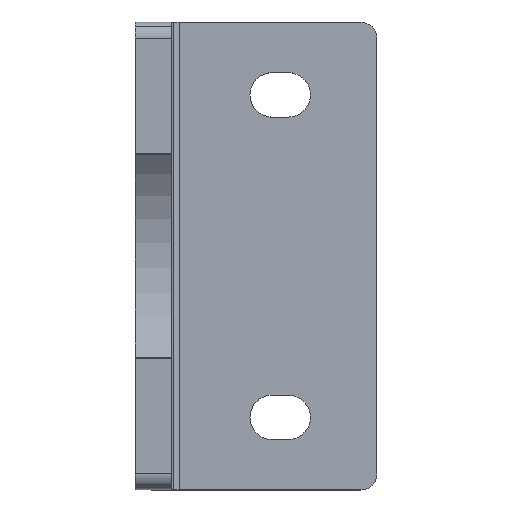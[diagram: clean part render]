
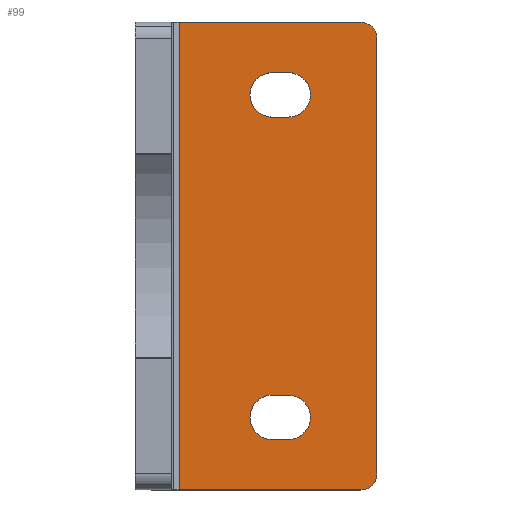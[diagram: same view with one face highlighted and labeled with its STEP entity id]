
A CAD part, top view. The second image highlights one B-rep face of the part: STEP entity #99.
In plain terms, the highlighted planar face has unit normal (0, 0, 1).
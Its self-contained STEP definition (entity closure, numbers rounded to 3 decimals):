
#99=ADVANCED_FACE('',(#259,#260,#261),#262,.T.);
#259=FACE_BOUND('',#485,.T.);
#260=FACE_BOUND('',#486,.T.);
#261=FACE_OUTER_BOUND('',#487,.T.);
#262=PLANE('',#488);
#485=EDGE_LOOP('',(#6237,#6238,#6239,#6240,#6241,#6242,#6243,#6244));
#486=EDGE_LOOP('',(#6245,#6246,#6247,#6248,#6249,#6250,#6251,#6252));
#487=EDGE_LOOP('',(#6253,#6254,#6255,#6256,#6257,#6258,#6259,#6260));
#488=AXIS2_PLACEMENT_3D('',#6261,#6262,#6263);
#6237=ORIENTED_EDGE('',*,*,#6908,.T.);
#6238=ORIENTED_EDGE('',*,*,#6909,.T.);
#6239=ORIENTED_EDGE('',*,*,#6910,.T.);
#6240=ORIENTED_EDGE('',*,*,#6911,.T.);
#6241=ORIENTED_EDGE('',*,*,#6912,.T.);
#6242=ORIENTED_EDGE('',*,*,#6913,.T.);
#6243=ORIENTED_EDGE('',*,*,#6914,.T.);
#6244=ORIENTED_EDGE('',*,*,#6915,.T.);
#6245=ORIENTED_EDGE('',*,*,#6916,.T.);
#6246=ORIENTED_EDGE('',*,*,#6917,.T.);
#6247=ORIENTED_EDGE('',*,*,#6918,.T.);
#6248=ORIENTED_EDGE('',*,*,#6919,.T.);
#6249=ORIENTED_EDGE('',*,*,#6920,.T.);
#6250=ORIENTED_EDGE('',*,*,#6921,.T.);
#6251=ORIENTED_EDGE('',*,*,#6922,.T.);
#6252=ORIENTED_EDGE('',*,*,#6923,.T.);
#6253=ORIENTED_EDGE('',*,*,#6924,.F.);
#6254=ORIENTED_EDGE('',*,*,#6898,.F.);
#6255=ORIENTED_EDGE('',*,*,#6925,.F.);
#6256=ORIENTED_EDGE('',*,*,#6926,.F.);
#6257=ORIENTED_EDGE('',*,*,#6927,.F.);
#6258=ORIENTED_EDGE('',*,*,#6928,.F.);
#6259=ORIENTED_EDGE('',*,*,#6929,.F.);
#6260=ORIENTED_EDGE('',*,*,#6930,.F.);
#6261=CARTESIAN_POINT('',(109.207,120.633,20.75));
#6262=DIRECTION('',(0.0,0.,1.0));
#6263=DIRECTION('',(0.0,-1.0,0.));
#6898=EDGE_CURVE('',#7178,#7180,#7181,.T.);
#6908=EDGE_CURVE('',#7197,#7198,#7199,.T.);
#6909=EDGE_CURVE('',#7198,#7200,#7201,.T.);
#6910=EDGE_CURVE('',#7200,#7202,#7203,.T.);
#6911=EDGE_CURVE('',#7202,#7204,#7205,.T.);
#6912=EDGE_CURVE('',#7204,#7206,#7207,.T.);
#6913=EDGE_CURVE('',#7206,#7208,#7209,.T.);
#6914=EDGE_CURVE('',#7208,#7210,#7211,.T.);
#6915=EDGE_CURVE('',#7210,#7197,#7212,.T.);
#6916=EDGE_CURVE('',#7213,#7214,#7215,.T.);
#6917=EDGE_CURVE('',#7214,#7216,#7217,.T.);
#6918=EDGE_CURVE('',#7216,#7218,#7219,.T.);
#6919=EDGE_CURVE('',#7218,#7220,#7221,.T.);
#6920=EDGE_CURVE('',#7220,#7222,#7223,.T.);
#6921=EDGE_CURVE('',#7222,#7224,#7225,.T.);
#6922=EDGE_CURVE('',#7224,#7226,#7227,.T.);
#6923=EDGE_CURVE('',#7226,#7213,#7228,.T.);
#6924=EDGE_CURVE('',#7180,#7229,#7230,.T.);
#6925=EDGE_CURVE('',#7231,#7178,#7232,.T.);
#6926=EDGE_CURVE('',#7233,#7231,#7234,.T.);
#6927=EDGE_CURVE('',#7235,#7233,#7236,.T.);
#6928=EDGE_CURVE('',#7237,#7235,#7238,.T.);
#6929=EDGE_CURVE('',#7239,#7237,#7240,.T.);
#6930=EDGE_CURVE('',#7229,#7239,#7241,.T.);
#7178=VERTEX_POINT('',#7592);
#7180=VERTEX_POINT('',#7595);
#7181=LINE('',#7596,#7597);
#7197=VERTEX_POINT('',#7962);
#7198=VERTEX_POINT('',#7963);
#7199=CIRCLE('',#7964,2.75);
#7200=VERTEX_POINT('',#7965);
#7201=CIRCLE('',#7966,2.75);
#7202=VERTEX_POINT('',#7967);
#7203=LINE('',#7968,#7969);
#7204=VERTEX_POINT('',#7970);
#7205=LINE('',#7971,#7972);
#7206=VERTEX_POINT('',#7973);
#7207=CIRCLE('',#7974,2.75);
#7208=VERTEX_POINT('',#7975);
#7209=CIRCLE('',#7976,2.75);
#7210=VERTEX_POINT('',#7977);
#7211=LINE('',#7978,#7979);
#7212=LINE('',#7980,#7981);
#7213=VERTEX_POINT('',#7982);
#7214=VERTEX_POINT('',#7983);
#7215=CIRCLE('',#7984,2.75);
#7216=VERTEX_POINT('',#7985);
#7217=CIRCLE('',#7986,2.75);
#7218=VERTEX_POINT('',#7987);
#7219=LINE('',#7988,#7989);
#7220=VERTEX_POINT('',#7990);
#7221=LINE('',#7991,#7992);
#7222=VERTEX_POINT('',#7993);
#7223=CIRCLE('',#7994,2.75);
#7224=VERTEX_POINT('',#7995);
#7225=CIRCLE('',#7996,2.75);
#7226=VERTEX_POINT('',#7997);
#7227=LINE('',#7998,#7999);
#7228=LINE('',#8000,#8001);
#7229=VERTEX_POINT('',#8002);
#7230=LINE('',#8003,#8004);
#7231=VERTEX_POINT('',#8005);
#7232=CIRCLE('',#8006,2.);
#7233=VERTEX_POINT('',#8007);
#7234=CIRCLE('',#8008,2.);
#7235=VERTEX_POINT('',#8009);
#7236=LINE('',#8010,#8011);
#7237=VERTEX_POINT('',#8012);
#7238=CIRCLE('',#8013,2.);
#7239=VERTEX_POINT('',#8014);
#7240=CIRCLE('',#8015,2.);
#7241=LINE('',#8016,#8017);
#7592=CARTESIAN_POINT('',(119.957,91.633,20.75));
#7595=CARTESIAN_POINT('',(97.457,91.633,20.75));
#7596=CARTESIAN_POINT('',(108.082,91.633,20.75));
#7597=VECTOR('',#17234,1.0);
#7962=CARTESIAN_POINT('',(108.707,97.894,20.75));
#7963=CARTESIAN_POINT('',(106.207,100.633,20.75));
#7964=AXIS2_PLACEMENT_3D('',#17244,#17245,#17246);
#7965=CARTESIAN_POINT('',(108.707,103.371,20.75));
#7966=AXIS2_PLACEMENT_3D('',#17247,#17248,#17249);
#7967=CARTESIAN_POINT('',(108.707,103.383,20.75));
#7968=CARTESIAN_POINT('',(108.707,110.633,20.75));
#7969=VECTOR('',#17250,1.0);
#7970=CARTESIAN_POINT('',(110.957,103.383,20.75));
#7971=CARTESIAN_POINT('',(109.519,103.383,20.75));
#7972=VECTOR('',#17251,1.0);
#7973=CARTESIAN_POINT('',(113.707,100.633,20.75));
#7974=AXIS2_PLACEMENT_3D('',#17252,#17253,#17254);
#7975=CARTESIAN_POINT('',(110.957,97.883,20.75));
#7976=AXIS2_PLACEMENT_3D('',#17255,#17256,#17257);
#7977=CARTESIAN_POINT('',(108.707,97.883,20.75));
#7978=CARTESIAN_POINT('',(109.519,97.883,20.75));
#7979=VECTOR('',#17258,1.0);
#7980=CARTESIAN_POINT('',(108.707,110.633,20.75));
#7981=VECTOR('',#17259,1.0);
#7982=CARTESIAN_POINT('',(108.707,137.894,20.75));
#7983=CARTESIAN_POINT('',(106.207,140.633,20.75));
#7984=AXIS2_PLACEMENT_3D('',#17260,#17261,#17262);
#7985=CARTESIAN_POINT('',(108.707,143.371,20.75));
#7986=AXIS2_PLACEMENT_3D('',#17263,#17264,#17265);
#7987=CARTESIAN_POINT('',(108.707,143.383,20.75));
#7988=CARTESIAN_POINT('',(108.707,130.633,20.75));
#7989=VECTOR('',#17266,1.0);
#7990=CARTESIAN_POINT('',(110.957,143.383,20.75));
#7991=CARTESIAN_POINT('',(109.519,143.383,20.75));
#7992=VECTOR('',#17267,1.0);
#7993=CARTESIAN_POINT('',(113.707,140.633,20.75));
#7994=AXIS2_PLACEMENT_3D('',#17268,#17269,#17270);
#7995=CARTESIAN_POINT('',(110.957,137.883,20.75));
#7996=AXIS2_PLACEMENT_3D('',#17271,#17272,#17273);
#7997=CARTESIAN_POINT('',(108.707,137.883,20.75));
#7998=CARTESIAN_POINT('',(109.519,137.883,20.75));
#7999=VECTOR('',#17274,1.0);
#8000=CARTESIAN_POINT('',(108.707,130.633,20.75));
#8001=VECTOR('',#17275,1.0);
#8002=CARTESIAN_POINT('',(97.457,149.633,20.75));
#8003=CARTESIAN_POINT('',(97.457,120.633,20.75));
#8004=VECTOR('',#17276,1.0);
#8005=CARTESIAN_POINT('',(121.371,92.218,20.75));
#8006=AXIS2_PLACEMENT_3D('',#17277,#17278,#17279);
#8007=CARTESIAN_POINT('',(121.957,93.633,20.75));
#8008=AXIS2_PLACEMENT_3D('',#17280,#17281,#17282);
#8009=CARTESIAN_POINT('',(121.957,147.633,20.75));
#8010=CARTESIAN_POINT('',(121.957,120.633,20.75));
#8011=VECTOR('',#17283,1.0);
#8012=CARTESIAN_POINT('',(121.371,149.047,20.75));
#8013=AXIS2_PLACEMENT_3D('',#17284,#17285,#17286);
#8014=CARTESIAN_POINT('',(119.957,149.633,20.75));
#8015=AXIS2_PLACEMENT_3D('',#17287,#17288,#17289);
#8016=CARTESIAN_POINT('',(108.082,149.633,20.75));
#8017=VECTOR('',#17290,1.0);
#17234=DIRECTION('',(-1.0,0.0,0.0));
#17244=CARTESIAN_POINT('',(108.957,100.633,20.75));
#17245=DIRECTION('',(0.0,0.,-1.0));
#17246=DIRECTION('',(1.0,0.0,0.0));
#17247=CARTESIAN_POINT('',(108.957,100.633,20.75));
#17248=DIRECTION('',(0.0,0.,-1.0));
#17249=DIRECTION('',(1.0,0.0,0.0));
#17250=DIRECTION('',(0.0,1.0,0.));
#17251=DIRECTION('',(1.0,0.0,0.0));
#17252=CARTESIAN_POINT('',(110.957,100.633,20.75));
#17253=DIRECTION('',(0.0,0.,-1.0));
#17254=DIRECTION('',(1.0,0.0,0.0));
#17255=CARTESIAN_POINT('',(110.957,100.633,20.75));
#17256=DIRECTION('',(0.0,0.,-1.0));
#17257=DIRECTION('',(1.0,0.0,0.0));
#17258=DIRECTION('',(-1.0,0.0,0.0));
#17259=DIRECTION('',(0.0,1.0,0.));
#17260=CARTESIAN_POINT('',(108.957,140.633,20.75));
#17261=DIRECTION('',(0.0,0.,-1.0));
#17262=DIRECTION('',(1.0,0.0,0.0));
#17263=CARTESIAN_POINT('',(108.957,140.633,20.75));
#17264=DIRECTION('',(0.0,0.,-1.0));
#17265=DIRECTION('',(1.0,0.0,0.0));
#17266=DIRECTION('',(0.0,1.0,0.));
#17267=DIRECTION('',(1.0,0.0,0.0));
#17268=CARTESIAN_POINT('',(110.957,140.633,20.75));
#17269=DIRECTION('',(0.0,0.,-1.0));
#17270=DIRECTION('',(1.0,0.0,0.0));
#17271=CARTESIAN_POINT('',(110.957,140.633,20.75));
#17272=DIRECTION('',(0.0,0.,-1.0));
#17273=DIRECTION('',(1.0,0.0,0.0));
#17274=DIRECTION('',(-1.0,0.0,0.0));
#17275=DIRECTION('',(0.0,1.0,0.));
#17276=DIRECTION('',(0.0,1.0,0.));
#17277=CARTESIAN_POINT('',(119.957,93.633,20.75));
#17278=DIRECTION('',(0.,0.,-1.0));
#17279=DIRECTION('',(0.707,-0.707,0.));
#17280=CARTESIAN_POINT('',(119.957,93.633,20.75));
#17281=DIRECTION('',(0.,0.,-1.0));
#17282=DIRECTION('',(0.707,-0.707,0.));
#17283=DIRECTION('',(0.0,-1.0,0.));
#17284=CARTESIAN_POINT('',(119.957,147.633,20.75));
#17285=DIRECTION('',(0.,0.,-1.0));
#17286=DIRECTION('',(0.707,0.707,0.));
#17287=CARTESIAN_POINT('',(119.957,147.633,20.75));
#17288=DIRECTION('',(0.,0.,-1.0));
#17289=DIRECTION('',(0.707,0.707,0.));
#17290=DIRECTION('',(1.0,0.0,0.0));
